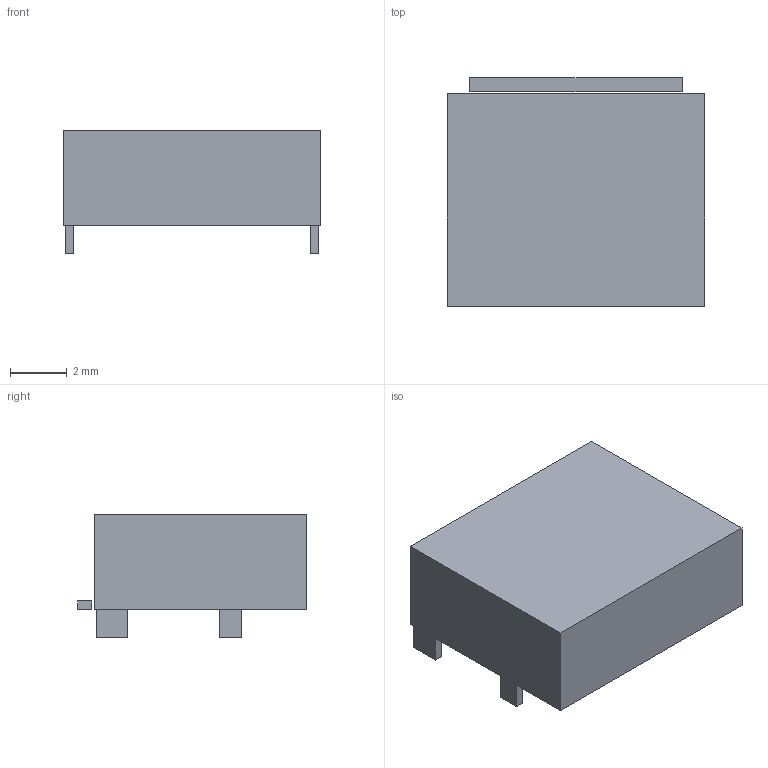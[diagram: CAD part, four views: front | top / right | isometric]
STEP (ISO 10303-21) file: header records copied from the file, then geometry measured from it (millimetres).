
FILE_DESCRIPTION(('Open CASCADE Model'),'2;1');
FILE_NAME('Open CASCADE Shape Model','2026-09-17T14:57:39',('Author'),( 'Open CASCADE'),'Open CASCADE STEP processor 7.8','Open CASCADE 7.8' ,'Unknown');
FILE_SCHEMA(('AUTOMOTIVE_DESIGN { 1 0 10303 214 1 1 1 1 }'));
Length unit declared in the file: millimetre
Products named in the file (3): Open CASCADE STEP translator 7.8 14; Open CASCADE STEP translator 7.8 14.1; Open CASCADE STEP translator 7.8 14.2
Assembly tree (2 placements, depth 2):
  Open CASCADE STEP translator 7.8 14
    Open CASCADE STEP translator 7.8 14.1
    Open CASCADE STEP translator 7.8 14.2
Bounding box: 9.09 x 8.07 x 4.36 mm (x, y, z)
Volume: 231.3 mm3; surface area: 270.1 mm2
Topology: 2 solids, 2 shells, 32 faces, 72 edges, 48 vertices
Faces by surface type: plane 32
Entity records: 1856 total; most frequent: CARTESIAN_POINT 299, DIRECTION 286, LINE 216, VECTOR 216, ORIENTED_EDGE 144, PCURVE 144, DEFINITIONAL_REPRESENTATION 144, EDGE_CURVE 72
